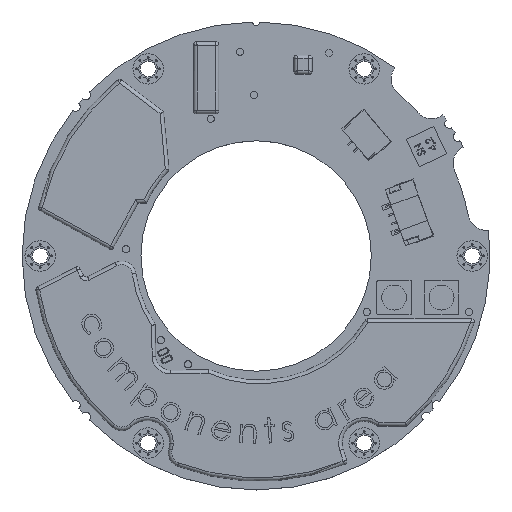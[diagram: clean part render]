
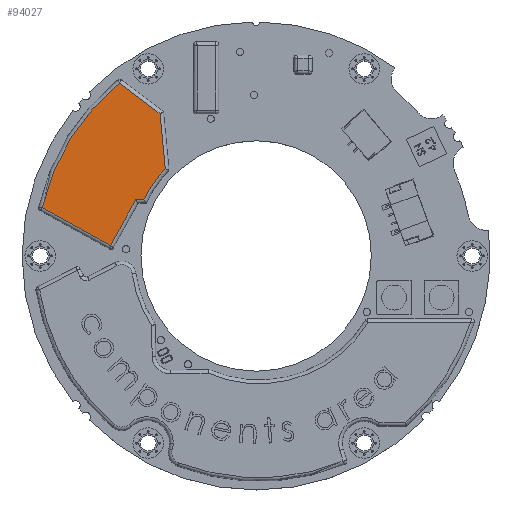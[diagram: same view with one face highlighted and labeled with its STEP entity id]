
A CAD part, top view. The second image highlights one B-rep face of the part: STEP entity #94027.
In plain terms, the highlighted planar face has unit normal (0, 0, 1).
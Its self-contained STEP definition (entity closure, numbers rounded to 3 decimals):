
#1280 = VECTOR ( 'NONE', #3182, 1000. ) ;
#2318 = ORIENTED_EDGE ( 'NONE', *, *, #58177, .T. ) ;
#2412 = CIRCLE ( 'NONE', #64962, 17.763 ) ;
#3182 = DIRECTION ( 'NONE',  ( -0.095, 0.996, 0. ) ) ;
#6340 = DIRECTION ( 'NONE',  ( 1., 0., 0. ) ) ;
#6378 = DIRECTION ( 'NONE',  ( 0., 0., 1. ) ) ;
#7508 = PLANE ( 'NONE',  #108317 ) ;
#8144 = CARTESIAN_POINT ( 'NONE',  ( 15.772, 44.081, 49.538 ) ) ;
#9413 = EDGE_LOOP ( 'NONE', ( #2318, #66529, #45233, #60739, #20280, #54595, #105311 ) ) ;
#10075 = CARTESIAN_POINT ( 'NONE',  ( 28.775, 31.978, 49.538 ) ) ;
#13580 = DIRECTION ( 'NONE',  ( 1., 0., 0. ) ) ;
#14131 = CARTESIAN_POINT ( 'NONE',  ( 28.775, 31.978, 49.538 ) ) ;
#14705 = DIRECTION ( 'NONE',  ( 0., 0., 1. ) ) ;
#16381 = CARTESIAN_POINT ( 'NONE',  ( 11.685, 39.777, 49.538 ) ) ;
#20256 = VECTOR ( 'NONE', #96547, 1000. ) ;
#20280 = ORIENTED_EDGE ( 'NONE', *, *, #63328, .T. ) ;
#21472 = EDGE_CURVE ( 'NONE', #108475, #77528, #2412, .T. ) ;
#28585 = AXIS2_PLACEMENT_3D ( 'NONE', #14131, #14705, #13580 ) ;
#35936 = CARTESIAN_POINT ( 'NONE',  ( 33.287, 37.953, 49.538 ) ) ;
#36145 = LINE ( 'NONE', #44803, #51536 ) ;
#37807 = VECTOR ( 'NONE', #56639, 1000. ) ;
#44803 = CARTESIAN_POINT ( 'NONE',  ( 12.382, 41.037, 49.538 ) ) ;
#45233 = ORIENTED_EDGE ( 'NONE', *, *, #21472, .T. ) ;
#45234 = DIRECTION ( 'NONE',  ( 0., 0., -1. ) ) ;
#46910 = CARTESIAN_POINT ( 'NONE',  ( 24.557, 24.346, 49.538 ) ) ;
#47149 = CARTESIAN_POINT ( 'NONE',  ( 12.815, 39.777, 49.538 ) ) ;
#47551 = LINE ( 'NONE', #82149, #1280 ) ;
#48123 = VERTEX_POINT ( 'NONE', #97081 ) ;
#50118 = LINE ( 'NONE', #85305, #67273 ) ;
#50202 = VERTEX_POINT ( 'NONE', #90600 ) ;
#51287 = CARTESIAN_POINT ( 'NONE',  ( 28.775, 31.978, 49.538 ) ) ;
#51536 = VECTOR ( 'NONE', #78266, 1000. ) ;
#54595 = ORIENTED_EDGE ( 'NONE', *, *, #71023, .T. ) ;
#56639 = DIRECTION ( 'NONE',  ( 0.875, -0.484, 0. ) ) ;
#58177 = EDGE_CURVE ( 'NONE', #50202, #106645, #36145, .T. ) ;
#58661 = VERTEX_POINT ( 'NONE', #63629 ) ;
#58774 = FACE_OUTER_BOUND ( 'NONE', #9413, .T. ) ;
#60496 = DIRECTION ( 'NONE',  ( 1., 0., 0. ) ) ;
#60739 = ORIENTED_EDGE ( 'NONE', *, *, #73004, .T. ) ;
#63328 = EDGE_CURVE ( 'NONE', #77662, #58661, #97662, .T. ) ;
#63629 = CARTESIAN_POINT ( 'NONE',  ( 9.43, 55.97, 49.538 ) ) ;
#64962 = AXIS2_PLACEMENT_3D ( 'NONE', #10075, #45234, #80394 ) ;
#66529 = ORIENTED_EDGE ( 'NONE', *, *, #100335, .T. ) ;
#67273 = VECTOR ( 'NONE', #6340, 1000. ) ;
#71023 = EDGE_CURVE ( 'NONE', #58661, #48123, #113382, .T. ) ;
#71310 = EDGE_CURVE ( 'NONE', #48123, #50202, #82616, .T. ) ;
#73004 = EDGE_CURVE ( 'NONE', #77528, #77662, #47551, .T. ) ;
#77528 = VERTEX_POINT ( 'NONE', #8144 ) ;
#77662 = VERTEX_POINT ( 'NONE', #107898 ) ;
#78266 = DIRECTION ( 'NONE',  ( 0.484, 0.875, 0. ) ) ;
#80394 = DIRECTION ( 'NONE',  ( 1., 0., 0. ) ) ;
#82149 = CARTESIAN_POINT ( 'NONE',  ( 17.028, 30.862, 49.538 ) ) ;
#82616 = LINE ( 'NONE', #46910, #37807 ) ;
#85305 = CARTESIAN_POINT ( 'NONE',  ( 28.775, 39.777, 49.538 ) ) ;
#90600 = CARTESIAN_POINT ( 'NONE',  ( 8.164, 33.405, 49.538 ) ) ;
#94027 = ADVANCED_FACE ( 'NONE', ( #58774 ), #7508, .T. ) ;
#96547 = DIRECTION ( 'NONE',  ( -0.798, 0.603, 0. ) ) ;
#97081 = CARTESIAN_POINT ( 'NONE',  ( -1.315, 38.643, 49.538 ) ) ;
#97662 = LINE ( 'NONE', #35936, #20256 ) ;
#100335 = EDGE_CURVE ( 'NONE', #106645, #108475, #50118, .T. ) ;
#105311 = ORIENTED_EDGE ( 'NONE', *, *, #71310, .T. ) ;
#106645 = VERTEX_POINT ( 'NONE', #16381 ) ;
#107898 = CARTESIAN_POINT ( 'NONE',  ( 15.046, 51.729, 49.538 ) ) ;
#108317 = AXIS2_PLACEMENT_3D ( 'NONE', #51287, #6378, #60496 ) ;
#108475 = VERTEX_POINT ( 'NONE', #47149 ) ;
#113382 = CIRCLE ( 'NONE', #28585, 30.82 ) ;
